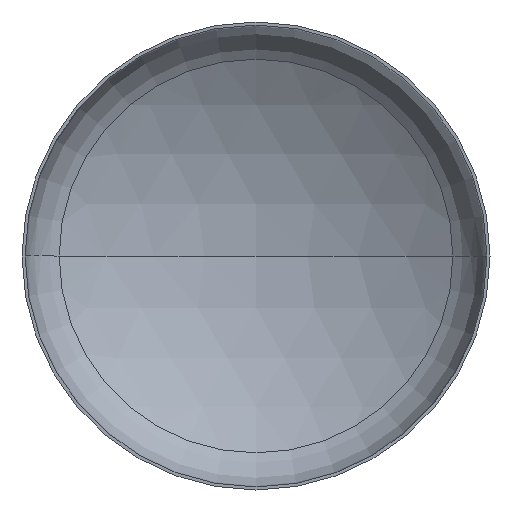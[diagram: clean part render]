
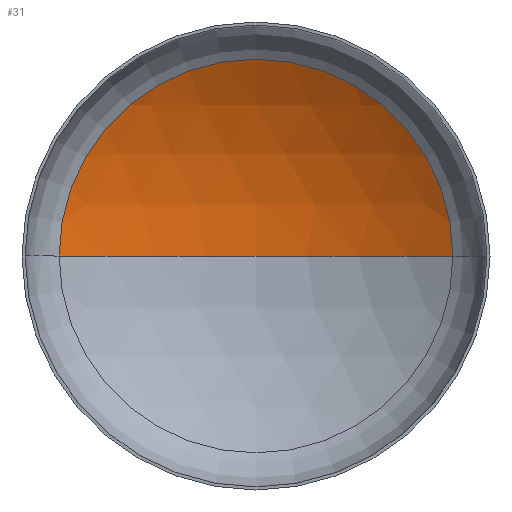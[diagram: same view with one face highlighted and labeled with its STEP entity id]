
A CAD part, front view. The second image highlights one B-rep face of the part: STEP entity #31.
In plain terms, the highlighted spherical face has radius 1200 mm.
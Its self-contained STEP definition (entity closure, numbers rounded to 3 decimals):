
#1 = VERTEX_POINT ( 'NONE', #267 ) ;
#11 = ORIENTED_EDGE ( 'NONE', *, *, #263, .T. ) ;
#18 = EDGE_LOOP ( 'NONE', ( #78, #11, #74 ) ) ;
#31 = ADVANCED_FACE ( 'NONE', ( #149 ), #134, .F. ) ;
#74 = ORIENTED_EDGE ( 'NONE', *, *, #256, .T. ) ;
#78 = ORIENTED_EDGE ( 'NONE', *, *, #265, .F. ) ;
#87 = CIRCLE ( 'NONE', #130, 1200. ) ;
#110 = VERTEX_POINT ( 'NONE', #344 ) ;
#114 = VERTEX_POINT ( 'NONE', #347 ) ;
#122 = AXIS2_PLACEMENT_3D ( 'NONE', #296, #293, #290 ) ;
#130 = AXIS2_PLACEMENT_3D ( 'NONE', #207, #209, #268 ) ;
#134 = SPHERICAL_SURFACE ( 'NONE', #210, 1200. ) ;
#135 = AXIS2_PLACEMENT_3D ( 'NONE', #406, #177, #190 ) ;
#149 = FACE_OUTER_BOUND ( 'NONE', #18, .T. ) ;
#177 = DIRECTION ( 'NONE',  ( 0., -1., 0. ) ) ;
#190 = DIRECTION ( 'NONE',  ( 1., 0., 0. ) ) ;
#207 = CARTESIAN_POINT ( 'NONE',  ( 0., -795.106, 0. ) ) ;
#209 = DIRECTION ( 'NONE',  ( 0., 0., -1. ) ) ;
#210 = AXIS2_PLACEMENT_3D ( 'NONE', #309, #274, #363 ) ;
#256 = EDGE_CURVE ( 'NONE', #1, #114, #393, .T. ) ;
#263 = EDGE_CURVE ( 'NONE', #110, #1, #87, .T. ) ;
#265 = EDGE_CURVE ( 'NONE', #110, #114, #388, .T. ) ;
#267 = CARTESIAN_POINT ( 'NONE',  ( 630.928, 225.644, 0. ) ) ;
#268 = DIRECTION ( 'NONE',  ( -1., 0., 0. ) ) ;
#274 = DIRECTION ( 'NONE',  ( 0., 0., -1. ) ) ;
#290 = DIRECTION ( 'NONE',  ( 1., 0., 0. ) ) ;
#293 = DIRECTION ( 'NONE',  ( 0., 0., 1. ) ) ;
#296 = CARTESIAN_POINT ( 'NONE',  ( 0., -795.106, 0. ) ) ;
#309 = CARTESIAN_POINT ( 'NONE',  ( 0., -795.106, 0. ) ) ;
#344 = CARTESIAN_POINT ( 'NONE',  ( 0., 404.894, 0. ) ) ;
#347 = CARTESIAN_POINT ( 'NONE',  ( -630.928, 225.644, 0. ) ) ;
#363 = DIRECTION ( 'NONE',  ( -1., 0., 0. ) ) ;
#388 = CIRCLE ( 'NONE', #122, 1200. ) ;
#393 = CIRCLE ( 'NONE', #135, 630.928 ) ;
#406 = CARTESIAN_POINT ( 'NONE',  ( 0., 225.644, 0. ) ) ;
